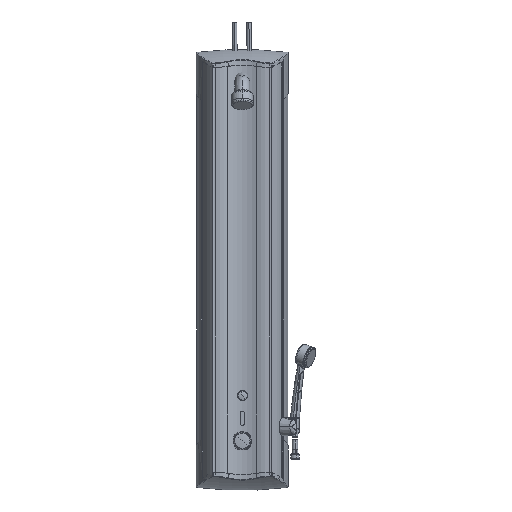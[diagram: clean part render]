
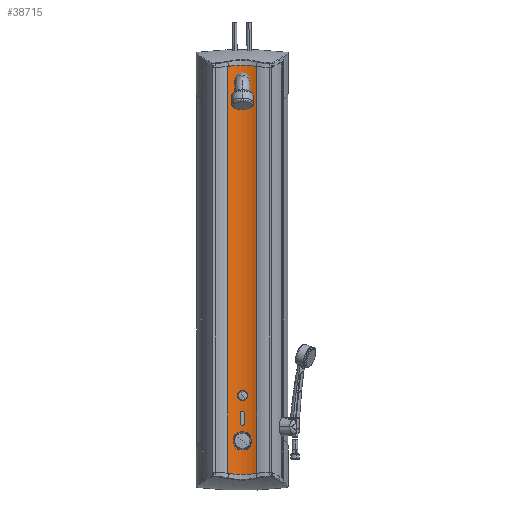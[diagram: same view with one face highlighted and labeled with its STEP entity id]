
A CAD part, top view. The second image highlights one B-rep face of the part: STEP entity #38715.
In plain terms, the highlighted cylindrical face has radius 104 mm (diameter 208 mm), a partial arc.
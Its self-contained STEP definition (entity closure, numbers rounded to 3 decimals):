
#1732 =( BOUNDED_CURVE ( )  B_SPLINE_CURVE ( 3, ( #19390, #22540, #26228, #7389 ),
 .UNSPECIFIED., .F., .T. ) 
 B_SPLINE_CURVE_WITH_KNOTS ( ( 4, 4 ),
 ( 5.886, 6.68 ),
 .UNSPECIFIED. ) 
 CURVE ( )  GEOMETRIC_REPRESENTATION_ITEM ( )  RATIONAL_B_SPLINE_CURVE ( ( 1., 0.948, 0.948, 1. ) ) 
 REPRESENTATION_ITEM ( '' )  );
#2411 = DIRECTION ( 'NONE',  ( 1., 0., 0. ) ) ;
#3145 = VERTEX_POINT ( 'NONE', #35431 ) ;
#3249 = LINE ( 'NONE', #8101, #10712 ) ;
#3507 = EDGE_CURVE ( 'NONE', #8525, #35532, #31897, .T. ) ;
#6246 =( BOUNDED_CURVE ( )  B_SPLINE_CURVE ( 3, ( #21294, #15645, #40624, #21963 ),
 .UNSPECIFIED., .F., .T. ) 
 B_SPLINE_CURVE_WITH_KNOTS ( ( 4, 4 ),
 ( 5.886, 6.68 ),
 .UNSPECIFIED. ) 
 CURVE ( )  GEOMETRIC_REPRESENTATION_ITEM ( )  RATIONAL_B_SPLINE_CURVE ( ( 1., 0.948, 0.948, 1. ) ) 
 REPRESENTATION_ITEM ( '' )  );
#7389 = CARTESIAN_POINT ( 'NONE',  ( -39.891, 627.007, 90.928 ) ) ;
#8101 = CARTESIAN_POINT ( 'NONE',  ( 40.491, -645.908, 90.928 ) ) ;
#8162 = VERTEX_POINT ( 'NONE', #23518 ) ;
#8525 = VERTEX_POINT ( 'NONE', #36399 ) ;
#8876 = CARTESIAN_POINT ( 'NONE',  ( -39.891, 627.007, 90.928 ) ) ;
#10176 = DIRECTION ( 'NONE',  ( 0., 1., 0. ) ) ;
#10712 = VECTOR ( 'NONE', #17608, 1000. ) ;
#10898 = AXIS2_PLACEMENT_3D ( 'NONE', #21305, #33211, #2411 ) ;
#10913 = ORIENTED_EDGE ( 'NONE', *, *, #21674, .T. ) ;
#12021 = ORIENTED_EDGE ( 'NONE', *, *, #21907, .F. ) ;
#14252 = VECTOR ( 'NONE', #10176, 1000. ) ;
#15645 = CARTESIAN_POINT ( 'NONE',  ( 14.429, -522.911, 80.008 ) ) ;
#15973 = EDGE_LOOP ( 'NONE', ( #16341, #12021, #10913, #21261 ) ) ;
#16341 = ORIENTED_EDGE ( 'NONE', *, *, #3507, .F. ) ;
#17608 = DIRECTION ( 'NONE',  ( 0., 1., 0. ) ) ;
#17793 = EDGE_CURVE ( 'NONE', #3145, #35532, #1732, .T. ) ;
#19390 = CARTESIAN_POINT ( 'NONE',  ( 40.491, 627.007, 90.928 ) ) ;
#21261 = ORIENTED_EDGE ( 'NONE', *, *, #17793, .T. ) ;
#21294 = CARTESIAN_POINT ( 'NONE',  ( 40.491, -518.824, 90.928 ) ) ;
#21305 = CARTESIAN_POINT ( 'NONE',  ( 0.3, -645.908, 186.848 ) ) ;
#21674 = EDGE_CURVE ( 'NONE', #8162, #3145, #3249, .T. ) ;
#21907 = EDGE_CURVE ( 'NONE', #8162, #8525, #6246, .T. ) ;
#21963 = CARTESIAN_POINT ( 'NONE',  ( -39.891, -518.824, 90.928 ) ) ;
#22067 = FACE_OUTER_BOUND ( 'NONE', #15973, .T. ) ;
#22540 = CARTESIAN_POINT ( 'NONE',  ( 14.429, 631.094, 80.008 ) ) ;
#23518 = CARTESIAN_POINT ( 'NONE',  ( 40.491, -518.824, 90.928 ) ) ;
#26228 = CARTESIAN_POINT ( 'NONE',  ( -13.829, 631.094, 80.008 ) ) ;
#28954 = CARTESIAN_POINT ( 'NONE',  ( -39.891, -645.908, 90.928 ) ) ;
#31897 = LINE ( 'NONE', #28954, #14252 ) ;
#33211 = DIRECTION ( 'NONE',  ( 0., 1., 0. ) ) ;
#35431 = CARTESIAN_POINT ( 'NONE',  ( 40.491, 627.007, 90.928 ) ) ;
#35532 = VERTEX_POINT ( 'NONE', #8876 ) ;
#36399 = CARTESIAN_POINT ( 'NONE',  ( -39.891, -518.824, 90.928 ) ) ;
#37688 = CYLINDRICAL_SURFACE ( 'NONE', #10898, 104. ) ;
#38715 = ADVANCED_FACE ( 'NONE', ( #22067 ), #37688, .F. ) ;
#40624 = CARTESIAN_POINT ( 'NONE',  ( -13.829, -522.911, 80.008 ) ) ;
